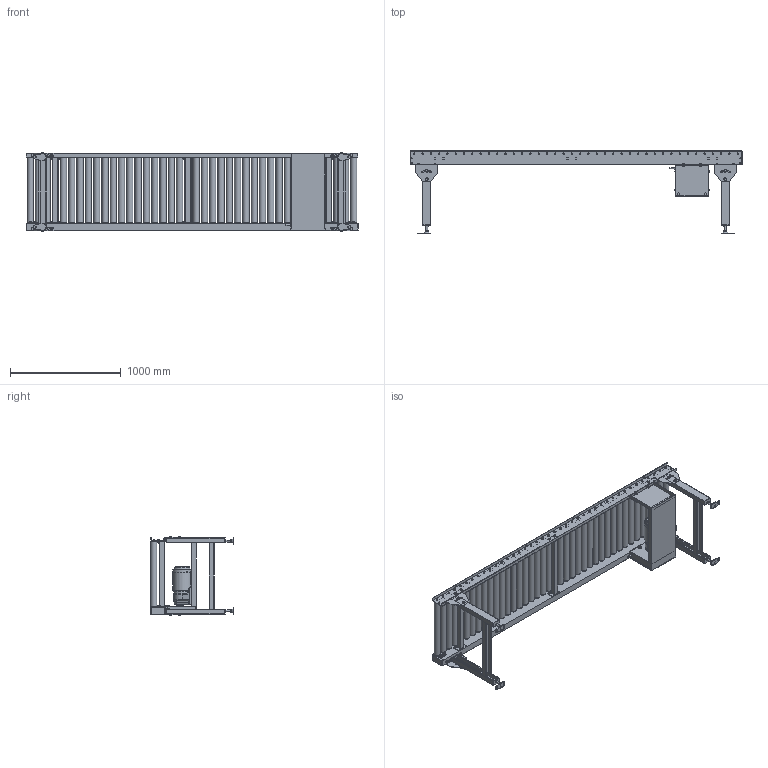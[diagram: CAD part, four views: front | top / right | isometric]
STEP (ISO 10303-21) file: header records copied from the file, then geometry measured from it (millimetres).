
FILE_DESCRIPTION( (''), '2;1');
FILE_NAME ('WEB-MCC3H-57-3-075-630-75-300-R-20S.stp','2025-09-17T16:23:18',(''),(''),'spGate 20.6.2 (****-****-****-****)','','');
FILE_SCHEMA (('AUTOMOTIVE_DESIGN'));
Length unit declared in the file: millimetre
Products named in the file (15): WEB-MCC3H-57-3-075-630-75-300-R-20S; TEMP_X_T-prt0; TEMP_X_T-prt1; TEMP_X_T-prt2; TEMP_X_T-prt3; TEMP_X_T-prt4; TEMP_X_T-prt5; TEMP_X_T-prt6; TEMP_X_T-prt7; TEMP_X_T-prt8; TEMP_X_T-prt9; TEMP_X_T-prt10; TEMP_X_T-prt11; TEMP_X_T-prt12; TEMP_X_T-prt13
Assembly tree (14 placements, depth 2):
  WEB-MCC3H-57-3-075-630-75-300-R-20S
    TEMP_X_T-prt0
    TEMP_X_T-prt1
    TEMP_X_T-prt2
    TEMP_X_T-prt3
    TEMP_X_T-prt4
    TEMP_X_T-prt5
    TEMP_X_T-prt6
    TEMP_X_T-prt7
    TEMP_X_T-prt8
    TEMP_X_T-prt9
    TEMP_X_T-prt10
    TEMP_X_T-prt11
    TEMP_X_T-prt12
    TEMP_X_T-prt13
Bounding box: 3002.4 x 750 x 714.4 mm (x, y, z)
Volume: 106755286.6 mm3; surface area: 9829657.6 mm2
Topology: 14 solids, 15 shells, 1849 faces, 4833 edges, 3228 vertices
Faces by surface type: plane 1407, cylinder 389, bspline 29, sphere 24
Full cylindrical faces by diameter (mm): 7 x1, 8 x3, 8.5 x4, 9.2 x4, 9.4 x24, 10 x30, 12 x45, 13 x12, 16 x52, 18.4 x16, 21 x18, 24 x8, 25 x4, 27 x1, 28 x1, 30 x2, 31 x1, 47 x40, 57 x40, 63 x1, 149.6 x1, 153 x1
Entity records: 97524 total; most frequent: CARTESIAN_POINT 12237, DIRECTION 9656, ORIENTED_EDGE 9618, COLOUR_RGB 6672, PRESENTATION_STYLE_ASSIGNMENT 6672, STYLED_ITEM 6672, EDGE_CURVE 4809, DRAUGHTING_PRE_DEFINED_CURVE_FONT 4809
